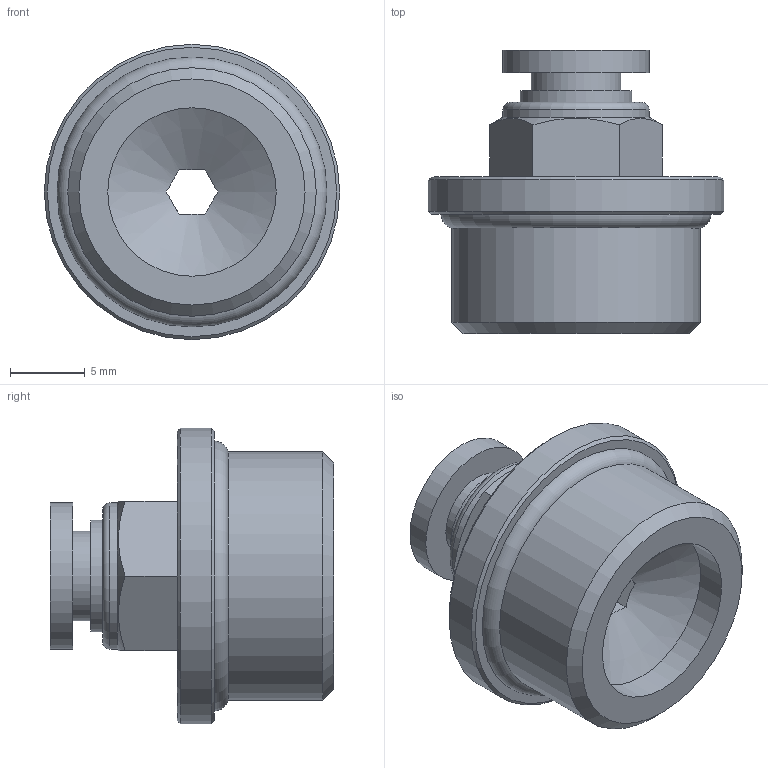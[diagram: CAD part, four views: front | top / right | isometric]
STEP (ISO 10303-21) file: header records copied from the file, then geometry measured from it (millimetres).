
FILE_DESCRIPTION(/* description */ (''),/* implementation_level */ '2;1');
FILE_NAME(/* name */ 'S:\_Tecnico\ArchivioUT\_Disegni3D ingombri\DISEGNI 3D per ingombri\RP\RP 51\RP513804.stp',/* time_stamp */ '2019-07-24T15:04:11+02:00',/* author */ ('ufficiotecnico3'),/* organization */ (''),/* preprocessor_version */ 'ST-DEVELOPER v18',/* originating_system */ 'Autodesk Inventor 2020',/* authorisation */ '');
FILE_SCHEMA (('AUTOMOTIVE_DESIGN { 1 0 10303 214 3 1 1 }'));
Length unit declared in the file: millimetre
Products named in the file (1): RP513804
Bounding box: 19.8 x 19 x 19.8 mm (x, y, z)
Volume: 2638.2 mm3; surface area: 1724.5 mm2
Topology: 1 solids, 1 shells, 35 faces, 96 edges, 69 vertices
Faces by surface type: plane 20, cylinder 8, cone 5, torus 2
Full cylindrical faces by diameter (mm): 4 x1, 6 x1, 7.5 x1, 9.8 x2, 11.3 x1, 16.662 x1, 19.8 x1
Entity records: 1178 total; most frequent: CARTESIAN_POINT 237, ORIENTED_EDGE 192, DIRECTION 191, EDGE_CURVE 96, AXIS2_PLACEMENT_3D 77, VERTEX_POINT 69, EDGE_LOOP 43, CIRCLE 41
